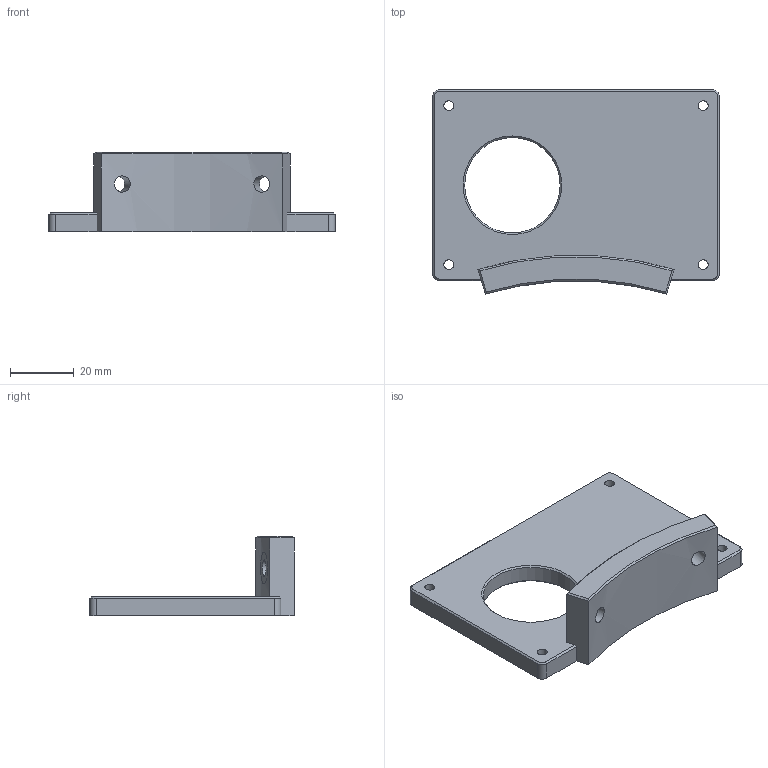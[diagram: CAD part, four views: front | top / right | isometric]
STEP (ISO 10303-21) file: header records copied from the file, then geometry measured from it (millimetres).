
FILE_DESCRIPTION(/* description */ ('Alibre Inc.'),/* implementation_level */ '2;1');
FILE_NAME(/* name */ 'export-56E82133-4BEA-46B8-B31E-B1BA006E17EF',/* time_stamp */ '2023-05-25T19:46:29+01:00',/* author */ (''),/* organization */ (''),/* preprocessor_version */ 'ST-DEVELOPER v17',/* originating_system */ 'Alibre',/* authorisation */ '');
FILE_SCHEMA (('AUTOMOTIVE_DESIGN'));
Length unit declared in the file: millimetre
Bounding box: 90 x 64.26 x 25 mm (x, y, z)
Volume: 37216.8 mm3; surface area: 14716.6 mm2
Topology: 1 solids, 1 shells, 42 faces, 104 edges, 66 vertices
Faces by surface type: plane 19, cylinder 15, cone 8
Full cylindrical faces by diameter (mm): 3.1 x4, 5.1 x2, 10 x2, 30 x1
Entity records: 1375 total; most frequent: CARTESIAN_POINT 405, ORIENTED_EDGE 182, DIRECTION 178, EDGE_CURVE 91, AXIS2_PLACEMENT_3D 75, EDGE_LOOP 69, FACE_BOUND 69, VERTEX_POINT 64
